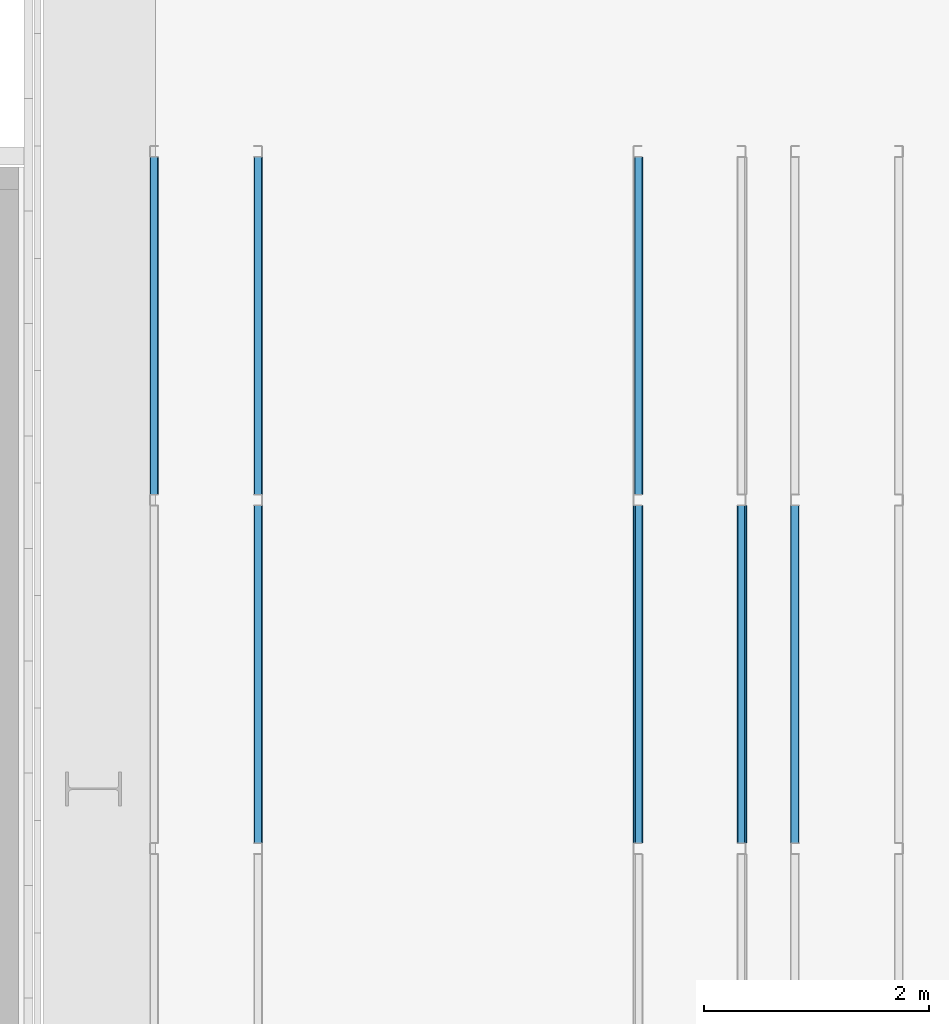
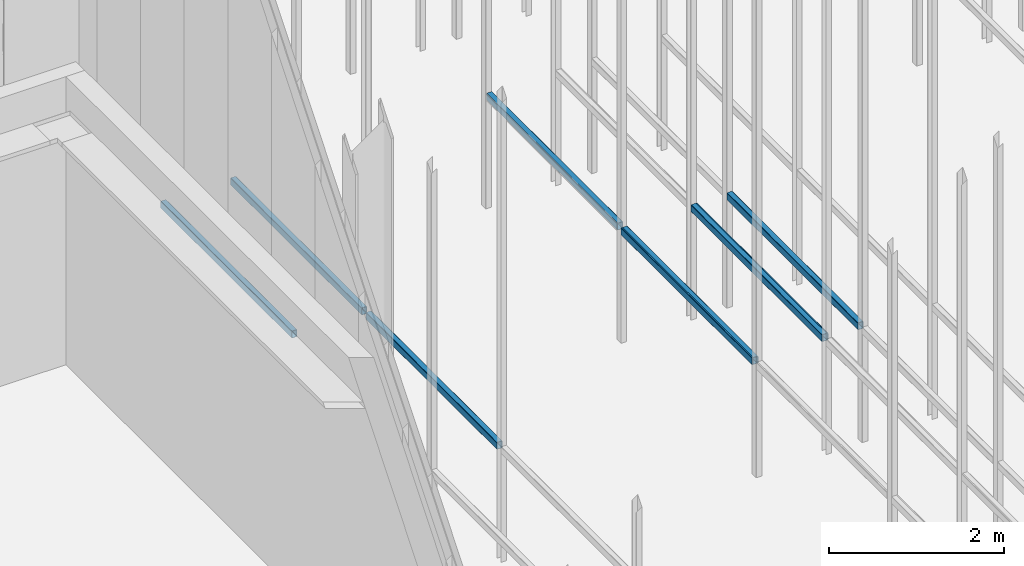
# One storey, part 145 of 302: 9 beams.
"""IFC2X3 building model written with IfcOpenShell, lengths in metres."""

from ifc_helpers import new_model, entity, si_unit, converted_unit, derived_unit, direction, frame, frame_2d, origin, place, context, subcontext, project, spatial, polyline, circle_curve, parameter, trimmed, segment, composite_curve, outline, extrude, material, type_object, element, save


model = new_model("IFC2X3")

# Units and contexts
model_context = context("Model", 3, precision=1e-05, world=origin(), true_north=direction((6.12303176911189e-17, 1.0)))
body_context = subcontext(model_context, "Body", "Model", "MODEL_VIEW")
ifc_project = project(units=[si_unit("LENGTHUNIT", "METRE"), si_unit("AREAUNIT", "SQUARE_METRE"), si_unit("VOLUMEUNIT", "CUBIC_METRE"), converted_unit("PLANEANGLEUNIT", "DEGREE", entity("IfcRatioMeasure", 0.0174532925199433), si_unit("PLANEANGLEUNIT", "RADIAN"), dimensions=[0, 0, 0, 0, 0, 0, 0]), si_unit("MASSUNIT", "GRAM", prefix="KILO"), derived_unit("MASSDENSITYUNIT", [(si_unit("MASSUNIT", "GRAM", prefix="KILO"), 1), (si_unit("LENGTHUNIT", "METRE"), -3)]), derived_unit("MOMENTOFINERTIAUNIT", [(si_unit("LENGTHUNIT", "METRE"), 4)]), si_unit("TIMEUNIT", "SECOND"), si_unit("FREQUENCYUNIT", "HERTZ"), si_unit("THERMODYNAMICTEMPERATUREUNIT", "DEGREE_CELSIUS"), derived_unit("THERMALTRANSMITTANCEUNIT", [(si_unit("MASSUNIT", "GRAM", prefix="KILO"), 1), (si_unit("THERMODYNAMICTEMPERATUREUNIT", "KELVIN"), -1), (si_unit("TIMEUNIT", "SECOND"), -3)]), derived_unit("VOLUMETRICFLOWRATEUNIT", [(si_unit("LENGTHUNIT", "METRE"), 3), (si_unit("TIMEUNIT", "SECOND"), -1)]), si_unit("ELECTRICCURRENTUNIT", "AMPERE"), si_unit("ELECTRICVOLTAGEUNIT", "VOLT"), si_unit("POWERUNIT", "WATT"), si_unit("FORCEUNIT", "NEWTON", prefix="KILO"), si_unit("ILLUMINANCEUNIT", "LUX"), si_unit("LUMINOUSFLUXUNIT", "LUMEN"), si_unit("LUMINOUSINTENSITYUNIT", "CANDELA"), derived_unit("USERDEFINED", [(si_unit("MASSUNIT", "GRAM", prefix="KILO"), -1), (si_unit("LENGTHUNIT", "METRE"), -2), (si_unit("TIMEUNIT", "SECOND"), 3), (si_unit("LUMINOUSFLUXUNIT", "LUMEN"), 1)]), derived_unit("LINEARVELOCITYUNIT", [(si_unit("LENGTHUNIT", "METRE"), 1), (si_unit("TIMEUNIT", "SECOND"), -1)]), si_unit("PRESSUREUNIT", "PASCAL"), derived_unit("USERDEFINED", [(si_unit("LENGTHUNIT", "METRE"), -2), (si_unit("MASSUNIT", "GRAM", prefix="KILO"), 1), (si_unit("TIMEUNIT", "SECOND"), -2)]), derived_unit("LINEARFORCEUNIT", [(si_unit("MASSUNIT", "GRAM", prefix="KILO"), 1), (si_unit("LENGTHUNIT", "METRE"), 1), (si_unit("TIMEUNIT", "SECOND"), -2), (si_unit("LENGTHUNIT", "METRE"), -1)]), derived_unit("PLANARFORCEUNIT", [(si_unit("MASSUNIT", "GRAM", prefix="KILO"), 1), (si_unit("LENGTHUNIT", "METRE"), 1), (si_unit("TIMEUNIT", "SECOND"), -2), (si_unit("LENGTHUNIT", "METRE"), -2)])], contexts=[model_context])

# Site, building, storey
site_placement = place(None, origin())
site = spatial("IfcSite", under=ifc_project, at=site_placement, Name="Default", CompositionType="ELEMENT")
building_placement = place(site_placement, origin())
building = spatial("IfcBuilding", under=site, at=building_placement, CompositionType="ELEMENT")
storey_placement = place(building_placement, frame((0.0, 0.0, -1.3)))
storey = spatial("IfcBuildingStorey", under=building, at=storey_placement, Name="00_EG", CompositionType="ELEMENT", Elevation=-1.3)

# Beams
ifc_material = material(Name="Metall - Baustahl S235 blau")
beam_type = type_object("IfcBeamType", Name="RHS Träger (EN 10219-2):RHS 100 x 75 x 5", PredefinedType="NOTDEFINED")
beam_1_placement = place(storey_placement, frame((-200.715111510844, 39.548088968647, 2.885), z_axis=(0.0, 0.0, 1.0), x_axis=(0.0, 1.0, 0.0)))
element("IfcBeam", 1, at=beam_1_placement, inside=storey, type_object=beam_type, material=ifc_material, Name="RHS Träger (EN 10219-2):RHS 100 x 75 x 5", ObjectType="RHS Träger (EN 10219-2):RHS 100 x 75 x 5", context=body_context, shape_type="SweptSolid", body=[
    extrude(outline(composite_curve([segment(trimmed(circle_curve(frame_2d((-0.0274999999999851, -0.0400000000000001), x_axis=(1.0, 0.0)), 0.01), [parameter(180.0)], [parameter(270.0)], True, "PARAMETER"), True, "CONTINUOUS"), segment(polyline([(-0.0274999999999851, -0.05), (0.0274999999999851, -0.05)]), True, "CONTINUOUS"), segment(trimmed(circle_curve(frame_2d((0.0274999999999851, -0.0400000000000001), x_axis=(1.0, 0.0)), 0.01), [parameter(270.0)], [parameter(5.08888749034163e-14)], True, "PARAMETER"), True, "CONTINUOUS"), segment(polyline([(0.0375000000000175, -0.0399999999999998), (0.0375000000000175, 0.0400000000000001)]), True, "CONTINUOUS"), segment(trimmed(circle_curve(frame_2d((0.0274999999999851, 0.0399999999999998), x_axis=(1.0, 0.0)), 0.01), [parameter(360.0)], [parameter(89.9999999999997)], True, "PARAMETER"), True, "CONTINUOUS"), segment(polyline([(0.0274999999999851, 0.05), (-0.0274999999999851, 0.05)]), True, "CONTINUOUS"), segment(trimmed(circle_curve(frame_2d((-0.0274999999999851, 0.0399999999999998), x_axis=(1.0, 0.0)), 0.01), [parameter(90.0000000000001)], [parameter(180.0)], True, "PARAMETER"), True, "CONTINUOUS"), segment(polyline([(-0.0374999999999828, 0.0400000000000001), (-0.0374999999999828, -0.0399999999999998)]), True, "CONTINUOUS")], self_intersect=False), holes=[composite_curve([segment(polyline([(0.0274999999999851, -0.0450000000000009), (-0.0274999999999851, -0.0450000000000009)]), True, "CONTINUOUS"), segment(trimmed(circle_curve(frame_2d((-0.0274999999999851, -0.0400000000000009), x_axis=(1.0, 0.0)), 0.005), [parameter(180.0)], [parameter(270.0)], True, "PARAMETER"), False, "CONTINUOUS"), segment(polyline([(-0.0325000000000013, -0.0400000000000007), (-0.0325000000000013, 0.0399999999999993)]), True, "CONTINUOUS"), segment(trimmed(circle_curve(frame_2d((-0.0274999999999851, 0.039999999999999), x_axis=(1.0, 0.0)), 0.005), [parameter(90.0000000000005)], [parameter(180.0)], True, "PARAMETER"), False, "CONTINUOUS"), segment(polyline([(-0.0274999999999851, 0.0449999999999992), (0.0274999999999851, 0.0449999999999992)]), True, "CONTINUOUS"), segment(trimmed(circle_curve(frame_2d((0.0274999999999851, 0.039999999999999), x_axis=(1.0, 0.0)), 0.005), [parameter(0.0)], [parameter(90.0000000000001)], True, "PARAMETER"), False, "CONTINUOUS"), segment(polyline([(0.0325000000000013, 0.0399999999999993), (0.0325000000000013, -0.0400000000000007)]), True, "CONTINUOUS"), segment(trimmed(circle_curve(frame_2d((0.0274999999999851, -0.0400000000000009), x_axis=(1.0, 0.0)), 0.005), [parameter(270.0)], [parameter(4.07110999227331e-13)], True, "PARAMETER"), False, "CONTINUOUS")], self_intersect=False)]), frame((9.99999999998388e-05, 0.0375000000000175, -0.0500000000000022), z_axis=(1.0, 0.0, 0.0), x_axis=(0.0, -1.0, 0.0)), (0.0, 0.0, 1.0), 2.99979999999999),
])
beam_2_placement = place(storey_placement, frame((-202.105111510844, 39.548088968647, 2.885), z_axis=(0.0, 0.0, 1.0), x_axis=(0.0, 1.0, 0.0)))
element("IfcBeam", 2, at=beam_2_placement, inside=storey, type_object=beam_type, material=ifc_material, Name="RHS Träger (EN 10219-2):RHS 100 x 75 x 5", ObjectType="RHS Träger (EN 10219-2):RHS 100 x 75 x 5", context=body_context, shape_type="SweptSolid", body=[
    extrude(outline(composite_curve([segment(trimmed(circle_curve(frame_2d((-0.0274999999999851, -0.0400000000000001), x_axis=(1.0, 0.0)), 0.01), [parameter(180.0)], [parameter(270.0)], True, "PARAMETER"), True, "CONTINUOUS"), segment(polyline([(-0.0274999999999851, -0.05), (0.0274999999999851, -0.05)]), True, "CONTINUOUS"), segment(trimmed(circle_curve(frame_2d((0.0274999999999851, -0.0400000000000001), x_axis=(1.0, 0.0)), 0.01), [parameter(270.0)], [parameter(5.08888749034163e-14)], True, "PARAMETER"), True, "CONTINUOUS"), segment(polyline([(0.0375000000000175, -0.0399999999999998), (0.0375000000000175, 0.0400000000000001)]), True, "CONTINUOUS"), segment(trimmed(circle_curve(frame_2d((0.0274999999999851, 0.0399999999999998), x_axis=(1.0, 0.0)), 0.01), [parameter(360.0)], [parameter(89.9999999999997)], True, "PARAMETER"), True, "CONTINUOUS"), segment(polyline([(0.0274999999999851, 0.05), (-0.0274999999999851, 0.05)]), True, "CONTINUOUS"), segment(trimmed(circle_curve(frame_2d((-0.0274999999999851, 0.0399999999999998), x_axis=(1.0, 0.0)), 0.01), [parameter(90.0000000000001)], [parameter(180.0)], True, "PARAMETER"), True, "CONTINUOUS"), segment(polyline([(-0.0374999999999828, 0.0400000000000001), (-0.0374999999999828, -0.0399999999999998)]), True, "CONTINUOUS")], self_intersect=False), holes=[composite_curve([segment(polyline([(0.0274999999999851, -0.0450000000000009), (-0.0274999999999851, -0.0450000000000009)]), True, "CONTINUOUS"), segment(trimmed(circle_curve(frame_2d((-0.0274999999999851, -0.0400000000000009), x_axis=(1.0, 0.0)), 0.005), [parameter(180.0)], [parameter(270.0)], True, "PARAMETER"), False, "CONTINUOUS"), segment(polyline([(-0.0325000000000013, -0.0400000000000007), (-0.0325000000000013, 0.0399999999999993)]), True, "CONTINUOUS"), segment(trimmed(circle_curve(frame_2d((-0.0274999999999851, 0.039999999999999), x_axis=(1.0, 0.0)), 0.005), [parameter(90.0000000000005)], [parameter(180.0)], True, "PARAMETER"), False, "CONTINUOUS"), segment(polyline([(-0.0274999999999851, 0.0449999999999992), (0.0274999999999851, 0.0449999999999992)]), True, "CONTINUOUS"), segment(trimmed(circle_curve(frame_2d((0.0274999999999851, 0.039999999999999), x_axis=(1.0, 0.0)), 0.005), [parameter(0.0)], [parameter(90.0000000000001)], True, "PARAMETER"), False, "CONTINUOUS"), segment(polyline([(0.0325000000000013, 0.0399999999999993), (0.0325000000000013, -0.0400000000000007)]), True, "CONTINUOUS"), segment(trimmed(circle_curve(frame_2d((0.0274999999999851, -0.0400000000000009), x_axis=(1.0, 0.0)), 0.005), [parameter(270.0)], [parameter(4.07110999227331e-13)], True, "PARAMETER"), False, "CONTINUOUS")], self_intersect=False)]), frame((9.99999999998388e-05, 0.0375000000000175, -0.0500000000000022), z_axis=(1.0, 0.0, 0.0), x_axis=(0.0, -1.0, 0.0)), (0.0, 0.0, 1.0), 2.99979999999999),
])
beam_3_placement = place(storey_placement, frame((-201.255111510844, 39.548088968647, 2.885), z_axis=(0.0, 0.0, 1.0), x_axis=(0.0, 1.0, 0.0)))
element("IfcBeam", 3, at=beam_3_placement, inside=storey, type_object=beam_type, material=ifc_material, Name="RHS Träger (EN 10219-2):RHS 100 x 75 x 5", ObjectType="RHS Träger (EN 10219-2):RHS 100 x 75 x 5", context=body_context, shape_type="SweptSolid", body=[
    extrude(outline(composite_curve([segment(polyline([(-0.0399999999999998, -0.0374999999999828), (0.0400000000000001, -0.0374999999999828)]), True, "CONTINUOUS"), segment(trimmed(circle_curve(frame_2d((0.0399999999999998, -0.0274999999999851), x_axis=(0.0, 1.0)), 0.01), [parameter(180.0)], [parameter(270.0)], True, "PARAMETER"), True, "CONTINUOUS"), segment(polyline([(0.05, -0.0274999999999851), (0.05, 0.0274999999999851)]), True, "CONTINUOUS"), segment(trimmed(circle_curve(frame_2d((0.0399999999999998, 0.0274999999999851), x_axis=(0.0, 1.0)), 0.01), [parameter(270.0)], [parameter(4.07110999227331e-13)], True, "PARAMETER"), True, "CONTINUOUS"), segment(polyline([(0.0400000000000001, 0.0375000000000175), (-0.0399999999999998, 0.0375000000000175)]), True, "CONTINUOUS"), segment(trimmed(circle_curve(frame_2d((-0.0400000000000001, 0.0274999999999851), x_axis=(0.0, 1.0)), 0.01), [parameter(360.0)], [parameter(90.0000000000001)], True, "PARAMETER"), True, "CONTINUOUS"), segment(polyline([(-0.05, 0.0274999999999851), (-0.05, -0.0274999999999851)]), True, "CONTINUOUS"), segment(trimmed(circle_curve(frame_2d((-0.0400000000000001, -0.0274999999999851), x_axis=(0.0, 1.0)), 0.01), [parameter(90.0000000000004)], [parameter(180.0)], True, "PARAMETER"), True, "CONTINUOUS")], self_intersect=False), holes=[composite_curve([segment(trimmed(circle_curve(frame_2d((-0.0400000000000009, 0.0274999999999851), x_axis=(0.0, 1.0)), 0.005), [parameter(360.0)], [parameter(89.9999999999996)], True, "PARAMETER"), False, "CONTINUOUS"), segment(polyline([(-0.0400000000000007, 0.0325000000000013), (0.0399999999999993, 0.0325000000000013)]), True, "CONTINUOUS"), segment(trimmed(circle_curve(frame_2d((0.039999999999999, 0.0274999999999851), x_axis=(0.0, 1.0)), 0.005), [parameter(270.0)], [parameter(0.0)], True, "PARAMETER"), False, "CONTINUOUS"), segment(polyline([(0.0449999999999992, 0.0274999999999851), (0.0449999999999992, -0.0274999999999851)]), True, "CONTINUOUS"), segment(trimmed(circle_curve(frame_2d((0.039999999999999, -0.0274999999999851), x_axis=(0.0, 1.0)), 0.005), [parameter(180.0)], [parameter(269.999999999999)], True, "PARAMETER"), False, "CONTINUOUS"), segment(polyline([(0.0399999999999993, -0.0325000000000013), (-0.0400000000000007, -0.0325000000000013)]), True, "CONTINUOUS"), segment(trimmed(circle_curve(frame_2d((-0.0400000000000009, -0.0274999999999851), x_axis=(0.0, 1.0)), 0.005), [parameter(90.0000000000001)], [parameter(180.0)], True, "PARAMETER"), False, "CONTINUOUS"), segment(polyline([(-0.0450000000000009, -0.0274999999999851), (-0.0450000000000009, 0.0274999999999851)]), True, "CONTINUOUS")], self_intersect=False)]), frame((0.000100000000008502, -0.0375000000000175, -0.0500000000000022), z_axis=(1.0, 0.0, 0.0), x_axis=(0.0, 0.0, -1.0)), (0.0, 0.0, 1.0), 2.99979999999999),
])
beam_4_placement = place(storey_placement, frame((-205.565111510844, 39.548088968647, 2.885), z_axis=(0.0, 0.0, 1.0), x_axis=(0.0, 1.0, 0.0)))
element("IfcBeam", 4, at=beam_4_placement, inside=storey, type_object=beam_type, material=ifc_material, Name="RHS Träger (EN 10219-2):RHS 100 x 75 x 5", ObjectType="RHS Träger (EN 10219-2):RHS 100 x 75 x 5", context=body_context, shape_type="SweptSolid", body=[
    extrude(outline(composite_curve([segment(polyline([(-0.0399999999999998, -0.0374999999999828), (0.0400000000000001, -0.0374999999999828)]), True, "CONTINUOUS"), segment(trimmed(circle_curve(frame_2d((0.0399999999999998, -0.0274999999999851), x_axis=(0.0, 1.0)), 0.01), [parameter(180.0)], [parameter(270.0)], True, "PARAMETER"), True, "CONTINUOUS"), segment(polyline([(0.05, -0.0274999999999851), (0.05, 0.0274999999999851)]), True, "CONTINUOUS"), segment(trimmed(circle_curve(frame_2d((0.0399999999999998, 0.0274999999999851), x_axis=(0.0, 1.0)), 0.01), [parameter(270.0)], [parameter(4.07110999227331e-13)], True, "PARAMETER"), True, "CONTINUOUS"), segment(polyline([(0.0400000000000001, 0.0375000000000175), (-0.0399999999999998, 0.0375000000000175)]), True, "CONTINUOUS"), segment(trimmed(circle_curve(frame_2d((-0.0400000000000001, 0.0274999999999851), x_axis=(0.0, 1.0)), 0.01), [parameter(360.0)], [parameter(90.0000000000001)], True, "PARAMETER"), True, "CONTINUOUS"), segment(polyline([(-0.05, 0.0274999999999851), (-0.05, -0.0274999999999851)]), True, "CONTINUOUS"), segment(trimmed(circle_curve(frame_2d((-0.0400000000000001, -0.0274999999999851), x_axis=(0.0, 1.0)), 0.01), [parameter(90.0000000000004)], [parameter(180.0)], True, "PARAMETER"), True, "CONTINUOUS")], self_intersect=False), holes=[composite_curve([segment(trimmed(circle_curve(frame_2d((-0.0400000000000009, 0.0274999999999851), x_axis=(0.0, 1.0)), 0.005), [parameter(360.0)], [parameter(89.9999999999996)], True, "PARAMETER"), False, "CONTINUOUS"), segment(polyline([(-0.0400000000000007, 0.0325000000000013), (0.0399999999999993, 0.0325000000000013)]), True, "CONTINUOUS"), segment(trimmed(circle_curve(frame_2d((0.039999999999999, 0.0274999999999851), x_axis=(0.0, 1.0)), 0.005), [parameter(270.0)], [parameter(0.0)], True, "PARAMETER"), False, "CONTINUOUS"), segment(polyline([(0.0449999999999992, 0.0274999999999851), (0.0449999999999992, -0.0274999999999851)]), True, "CONTINUOUS"), segment(trimmed(circle_curve(frame_2d((0.039999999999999, -0.0274999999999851), x_axis=(0.0, 1.0)), 0.005), [parameter(180.0)], [parameter(269.999999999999)], True, "PARAMETER"), False, "CONTINUOUS"), segment(polyline([(0.0399999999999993, -0.0325000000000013), (-0.0400000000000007, -0.0325000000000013)]), True, "CONTINUOUS"), segment(trimmed(circle_curve(frame_2d((-0.0400000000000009, -0.0274999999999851), x_axis=(0.0, 1.0)), 0.005), [parameter(90.0000000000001)], [parameter(180.0)], True, "PARAMETER"), False, "CONTINUOUS"), segment(polyline([(-0.0450000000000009, -0.0274999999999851), (-0.0450000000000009, 0.0274999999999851)]), True, "CONTINUOUS")], self_intersect=False)]), frame((0.000100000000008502, -0.0375000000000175, -0.0500000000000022), z_axis=(1.0, 0.0, 0.0), x_axis=(0.0, 0.0, -1.0)), (0.0, 0.0, 1.0), 2.99979999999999),
])
beam_5_placement = place(storey_placement, frame((-202.115111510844, 39.548088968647, 2.885), z_axis=(0.0, 0.0, 1.0), x_axis=(0.0, 1.0, 0.0)))
element("IfcBeam", 5, at=beam_5_placement, inside=storey, type_object=beam_type, material=ifc_material, Name="RHS Träger (EN 10219-2):RHS 100 x 75 x 5", ObjectType="RHS Träger (EN 10219-2):RHS 100 x 75 x 5", context=body_context, shape_type="SweptSolid", body=[
    extrude(outline(composite_curve([segment(trimmed(circle_curve(frame_2d((-0.0274999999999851, -0.0400000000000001), x_axis=(1.0, 0.0)), 0.01), [parameter(180.0)], [parameter(270.0)], True, "PARAMETER"), True, "CONTINUOUS"), segment(polyline([(-0.0274999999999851, -0.05), (0.0274999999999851, -0.05)]), True, "CONTINUOUS"), segment(trimmed(circle_curve(frame_2d((0.0274999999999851, -0.0400000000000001), x_axis=(1.0, 0.0)), 0.01), [parameter(270.0)], [parameter(5.08888749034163e-14)], True, "PARAMETER"), True, "CONTINUOUS"), segment(polyline([(0.0375000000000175, -0.0399999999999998), (0.0375000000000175, 0.0400000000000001)]), True, "CONTINUOUS"), segment(trimmed(circle_curve(frame_2d((0.0274999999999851, 0.0399999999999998), x_axis=(1.0, 0.0)), 0.01), [parameter(360.0)], [parameter(89.9999999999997)], True, "PARAMETER"), True, "CONTINUOUS"), segment(polyline([(0.0274999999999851, 0.05), (-0.0274999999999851, 0.05)]), True, "CONTINUOUS"), segment(trimmed(circle_curve(frame_2d((-0.0274999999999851, 0.0399999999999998), x_axis=(1.0, 0.0)), 0.01), [parameter(90.0000000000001)], [parameter(180.0)], True, "PARAMETER"), True, "CONTINUOUS"), segment(polyline([(-0.0374999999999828, 0.0400000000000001), (-0.0374999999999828, -0.0399999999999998)]), True, "CONTINUOUS")], self_intersect=False), holes=[composite_curve([segment(polyline([(0.0274999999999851, -0.0450000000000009), (-0.0274999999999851, -0.0450000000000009)]), True, "CONTINUOUS"), segment(trimmed(circle_curve(frame_2d((-0.0274999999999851, -0.0400000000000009), x_axis=(1.0, 0.0)), 0.005), [parameter(180.0)], [parameter(270.0)], True, "PARAMETER"), False, "CONTINUOUS"), segment(polyline([(-0.0325000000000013, -0.0400000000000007), (-0.0325000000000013, 0.0399999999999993)]), True, "CONTINUOUS"), segment(trimmed(circle_curve(frame_2d((-0.0274999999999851, 0.039999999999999), x_axis=(1.0, 0.0)), 0.005), [parameter(90.0000000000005)], [parameter(180.0)], True, "PARAMETER"), False, "CONTINUOUS"), segment(polyline([(-0.0274999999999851, 0.0449999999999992), (0.0274999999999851, 0.0449999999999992)]), True, "CONTINUOUS"), segment(trimmed(circle_curve(frame_2d((0.0274999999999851, 0.039999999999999), x_axis=(1.0, 0.0)), 0.005), [parameter(0.0)], [parameter(90.0000000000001)], True, "PARAMETER"), False, "CONTINUOUS"), segment(polyline([(0.0325000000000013, 0.0399999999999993), (0.0325000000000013, -0.0400000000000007)]), True, "CONTINUOUS"), segment(trimmed(circle_curve(frame_2d((0.0274999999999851, -0.0400000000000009), x_axis=(1.0, 0.0)), 0.005), [parameter(270.0)], [parameter(4.07110999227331e-13)], True, "PARAMETER"), False, "CONTINUOUS")], self_intersect=False)]), frame((9.99999999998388e-05, 0.0375000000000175, -0.0500000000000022), z_axis=(1.0, 0.0, 0.0), x_axis=(0.0, -1.0, 0.0)), (0.0, 0.0, 1.0), 2.99979999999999),
])
beam_6_placement = place(storey_placement, frame((-201.265111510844, 39.548088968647, 2.885), z_axis=(0.0, 0.0, 1.0), x_axis=(0.0, 1.0, 0.0)))
element("IfcBeam", 6, at=beam_6_placement, inside=storey, type_object=beam_type, material=ifc_material, Name="RHS Träger (EN 10219-2):RHS 100 x 75 x 5", ObjectType="RHS Träger (EN 10219-2):RHS 100 x 75 x 5", context=body_context, shape_type="SweptSolid", body=[
    extrude(outline(composite_curve([segment(polyline([(-0.0399999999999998, -0.0374999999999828), (0.0400000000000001, -0.0374999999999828)]), True, "CONTINUOUS"), segment(trimmed(circle_curve(frame_2d((0.0399999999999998, -0.0274999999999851), x_axis=(0.0, 1.0)), 0.01), [parameter(180.0)], [parameter(270.0)], True, "PARAMETER"), True, "CONTINUOUS"), segment(polyline([(0.05, -0.0274999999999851), (0.05, 0.0274999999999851)]), True, "CONTINUOUS"), segment(trimmed(circle_curve(frame_2d((0.0399999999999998, 0.0274999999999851), x_axis=(0.0, 1.0)), 0.01), [parameter(270.0)], [parameter(4.07110999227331e-13)], True, "PARAMETER"), True, "CONTINUOUS"), segment(polyline([(0.0400000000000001, 0.0375000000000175), (-0.0399999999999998, 0.0375000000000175)]), True, "CONTINUOUS"), segment(trimmed(circle_curve(frame_2d((-0.0400000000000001, 0.0274999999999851), x_axis=(0.0, 1.0)), 0.01), [parameter(360.0)], [parameter(90.0000000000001)], True, "PARAMETER"), True, "CONTINUOUS"), segment(polyline([(-0.05, 0.0274999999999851), (-0.05, -0.0274999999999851)]), True, "CONTINUOUS"), segment(trimmed(circle_curve(frame_2d((-0.0400000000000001, -0.0274999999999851), x_axis=(0.0, 1.0)), 0.01), [parameter(90.0000000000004)], [parameter(180.0)], True, "PARAMETER"), True, "CONTINUOUS")], self_intersect=False), holes=[composite_curve([segment(trimmed(circle_curve(frame_2d((-0.0400000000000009, 0.0274999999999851), x_axis=(0.0, 1.0)), 0.005), [parameter(360.0)], [parameter(89.9999999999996)], True, "PARAMETER"), False, "CONTINUOUS"), segment(polyline([(-0.0400000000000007, 0.0325000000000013), (0.0399999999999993, 0.0325000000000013)]), True, "CONTINUOUS"), segment(trimmed(circle_curve(frame_2d((0.039999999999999, 0.0274999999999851), x_axis=(0.0, 1.0)), 0.005), [parameter(270.0)], [parameter(0.0)], True, "PARAMETER"), False, "CONTINUOUS"), segment(polyline([(0.0449999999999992, 0.0274999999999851), (0.0449999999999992, -0.0274999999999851)]), True, "CONTINUOUS"), segment(trimmed(circle_curve(frame_2d((0.039999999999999, -0.0274999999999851), x_axis=(0.0, 1.0)), 0.005), [parameter(180.0)], [parameter(269.999999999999)], True, "PARAMETER"), False, "CONTINUOUS"), segment(polyline([(0.0399999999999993, -0.0325000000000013), (-0.0400000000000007, -0.0325000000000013)]), True, "CONTINUOUS"), segment(trimmed(circle_curve(frame_2d((-0.0400000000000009, -0.0274999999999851), x_axis=(0.0, 1.0)), 0.005), [parameter(90.0000000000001)], [parameter(180.0)], True, "PARAMETER"), False, "CONTINUOUS"), segment(polyline([(-0.0450000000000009, -0.0274999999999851), (-0.0450000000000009, 0.0274999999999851)]), True, "CONTINUOUS")], self_intersect=False)]), frame((0.000100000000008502, -0.0375000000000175, -0.0500000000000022), z_axis=(1.0, 0.0, 0.0), x_axis=(0.0, 0.0, -1.0)), (0.0, 0.0, 1.0), 2.99979999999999),
])
beam_7_placement = place(storey_placement, frame((-202.105111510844, 42.648088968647, 2.885), z_axis=(0.0, 0.0, 1.0), x_axis=(0.0, 1.0, 0.0)))
element("IfcBeam", 7, at=beam_7_placement, inside=storey, type_object=beam_type, material=ifc_material, Name="RHS Träger (EN 10219-2):RHS 100 x 75 x 5", ObjectType="RHS Träger (EN 10219-2):RHS 100 x 75 x 5", context=body_context, shape_type="SweptSolid", body=[
    extrude(outline(composite_curve([segment(trimmed(circle_curve(frame_2d((-0.0274999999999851, -0.0400000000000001), x_axis=(1.0, 0.0)), 0.01), [parameter(180.0)], [parameter(270.0)], True, "PARAMETER"), True, "CONTINUOUS"), segment(polyline([(-0.0274999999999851, -0.05), (0.0274999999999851, -0.05)]), True, "CONTINUOUS"), segment(trimmed(circle_curve(frame_2d((0.0274999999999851, -0.0400000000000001), x_axis=(1.0, 0.0)), 0.01), [parameter(270.0)], [parameter(5.08888749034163e-14)], True, "PARAMETER"), True, "CONTINUOUS"), segment(polyline([(0.0375000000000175, -0.0399999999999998), (0.0375000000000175, 0.0400000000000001)]), True, "CONTINUOUS"), segment(trimmed(circle_curve(frame_2d((0.0274999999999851, 0.0399999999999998), x_axis=(1.0, 0.0)), 0.01), [parameter(360.0)], [parameter(89.9999999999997)], True, "PARAMETER"), True, "CONTINUOUS"), segment(polyline([(0.0274999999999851, 0.05), (-0.0274999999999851, 0.05)]), True, "CONTINUOUS"), segment(trimmed(circle_curve(frame_2d((-0.0274999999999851, 0.0399999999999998), x_axis=(1.0, 0.0)), 0.01), [parameter(90.0000000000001)], [parameter(180.0)], True, "PARAMETER"), True, "CONTINUOUS"), segment(polyline([(-0.0374999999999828, 0.0400000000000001), (-0.0374999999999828, -0.0399999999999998)]), True, "CONTINUOUS")], self_intersect=False), holes=[composite_curve([segment(polyline([(0.0274999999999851, -0.0450000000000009), (-0.0274999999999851, -0.0450000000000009)]), True, "CONTINUOUS"), segment(trimmed(circle_curve(frame_2d((-0.0274999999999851, -0.0400000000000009), x_axis=(1.0, 0.0)), 0.005), [parameter(180.0)], [parameter(270.0)], True, "PARAMETER"), False, "CONTINUOUS"), segment(polyline([(-0.0325000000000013, -0.0400000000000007), (-0.0325000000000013, 0.0399999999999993)]), True, "CONTINUOUS"), segment(trimmed(circle_curve(frame_2d((-0.0274999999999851, 0.039999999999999), x_axis=(1.0, 0.0)), 0.005), [parameter(90.0000000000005)], [parameter(180.0)], True, "PARAMETER"), False, "CONTINUOUS"), segment(polyline([(-0.0274999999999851, 0.0449999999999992), (0.0274999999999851, 0.0449999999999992)]), True, "CONTINUOUS"), segment(trimmed(circle_curve(frame_2d((0.0274999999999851, 0.039999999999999), x_axis=(1.0, 0.0)), 0.005), [parameter(0.0)], [parameter(90.0000000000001)], True, "PARAMETER"), False, "CONTINUOUS"), segment(polyline([(0.0325000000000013, 0.0399999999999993), (0.0325000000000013, -0.0400000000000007)]), True, "CONTINUOUS"), segment(trimmed(circle_curve(frame_2d((0.0274999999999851, -0.0400000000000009), x_axis=(1.0, 0.0)), 0.005), [parameter(270.0)], [parameter(4.07110999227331e-13)], True, "PARAMETER"), False, "CONTINUOUS")], self_intersect=False)]), frame((0.000100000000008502, 0.0375000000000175, -0.0500000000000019), z_axis=(1.0, 0.0, 0.0), x_axis=(0.0, -1.0, 0.0)), (0.0, 0.0, 1.0), 2.99979999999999),
])
beam_8_placement = place(storey_placement, frame((-206.415111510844, 42.648088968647, 2.885), z_axis=(0.0, 0.0, 1.0), x_axis=(0.0, 1.0, 0.0)))
element("IfcBeam", 8, at=beam_8_placement, inside=storey, type_object=beam_type, material=ifc_material, Name="RHS Träger (EN 10219-2):RHS 100 x 75 x 5", ObjectType="RHS Träger (EN 10219-2):RHS 100 x 75 x 5", context=body_context, shape_type="SweptSolid", body=[
    extrude(outline(composite_curve([segment(trimmed(circle_curve(frame_2d((-0.0274999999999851, -0.0400000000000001), x_axis=(1.0, 0.0)), 0.01), [parameter(180.0)], [parameter(270.0)], True, "PARAMETER"), True, "CONTINUOUS"), segment(polyline([(-0.0274999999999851, -0.05), (0.0274999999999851, -0.05)]), True, "CONTINUOUS"), segment(trimmed(circle_curve(frame_2d((0.0274999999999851, -0.0400000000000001), x_axis=(1.0, 0.0)), 0.01), [parameter(270.0)], [parameter(5.08888749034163e-14)], True, "PARAMETER"), True, "CONTINUOUS"), segment(polyline([(0.0375000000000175, -0.0399999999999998), (0.0375000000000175, 0.0400000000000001)]), True, "CONTINUOUS"), segment(trimmed(circle_curve(frame_2d((0.0274999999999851, 0.0399999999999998), x_axis=(1.0, 0.0)), 0.01), [parameter(360.0)], [parameter(89.9999999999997)], True, "PARAMETER"), True, "CONTINUOUS"), segment(polyline([(0.0274999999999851, 0.05), (-0.0274999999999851, 0.05)]), True, "CONTINUOUS"), segment(trimmed(circle_curve(frame_2d((-0.0274999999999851, 0.0399999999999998), x_axis=(1.0, 0.0)), 0.01), [parameter(90.0000000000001)], [parameter(180.0)], True, "PARAMETER"), True, "CONTINUOUS"), segment(polyline([(-0.0374999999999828, 0.0400000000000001), (-0.0374999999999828, -0.0399999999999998)]), True, "CONTINUOUS")], self_intersect=False), holes=[composite_curve([segment(polyline([(0.0274999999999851, -0.0450000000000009), (-0.0274999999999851, -0.0450000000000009)]), True, "CONTINUOUS"), segment(trimmed(circle_curve(frame_2d((-0.0274999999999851, -0.0400000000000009), x_axis=(1.0, 0.0)), 0.005), [parameter(180.0)], [parameter(270.0)], True, "PARAMETER"), False, "CONTINUOUS"), segment(polyline([(-0.0325000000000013, -0.0400000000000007), (-0.0325000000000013, 0.0399999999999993)]), True, "CONTINUOUS"), segment(trimmed(circle_curve(frame_2d((-0.0274999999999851, 0.039999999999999), x_axis=(1.0, 0.0)), 0.005), [parameter(90.0000000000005)], [parameter(180.0)], True, "PARAMETER"), False, "CONTINUOUS"), segment(polyline([(-0.0274999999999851, 0.0449999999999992), (0.0274999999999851, 0.0449999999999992)]), True, "CONTINUOUS"), segment(trimmed(circle_curve(frame_2d((0.0274999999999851, 0.039999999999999), x_axis=(1.0, 0.0)), 0.005), [parameter(0.0)], [parameter(90.0000000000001)], True, "PARAMETER"), False, "CONTINUOUS"), segment(polyline([(0.0325000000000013, 0.0399999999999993), (0.0325000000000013, -0.0400000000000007)]), True, "CONTINUOUS"), segment(trimmed(circle_curve(frame_2d((0.0274999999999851, -0.0400000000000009), x_axis=(1.0, 0.0)), 0.005), [parameter(270.0)], [parameter(4.07110999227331e-13)], True, "PARAMETER"), False, "CONTINUOUS")], self_intersect=False)]), frame((9.99999999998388e-05, 0.0375000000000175, -0.0500000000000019), z_axis=(1.0, 0.0, 0.0), x_axis=(0.0, -1.0, 0.0)), (0.0, 0.0, 1.0), 2.99979999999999),
])
beam_9_placement = place(storey_placement, frame((-205.565111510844, 42.648088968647, 2.885), z_axis=(0.0, 0.0, 1.0), x_axis=(0.0, 1.0, 0.0)))
element("IfcBeam", 9, at=beam_9_placement, inside=storey, type_object=beam_type, material=ifc_material, Name="RHS Träger (EN 10219-2):RHS 100 x 75 x 5", ObjectType="RHS Träger (EN 10219-2):RHS 100 x 75 x 5", context=body_context, shape_type="SweptSolid", body=[
    extrude(outline(composite_curve([segment(polyline([(-0.0399999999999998, -0.0374999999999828), (0.0400000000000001, -0.0374999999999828)]), True, "CONTINUOUS"), segment(trimmed(circle_curve(frame_2d((0.0399999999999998, -0.0274999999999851), x_axis=(0.0, 1.0)), 0.01), [parameter(180.0)], [parameter(270.0)], True, "PARAMETER"), True, "CONTINUOUS"), segment(polyline([(0.05, -0.0274999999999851), (0.05, 0.0274999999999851)]), True, "CONTINUOUS"), segment(trimmed(circle_curve(frame_2d((0.0399999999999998, 0.0274999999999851), x_axis=(0.0, 1.0)), 0.01), [parameter(270.0)], [parameter(4.07110999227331e-13)], True, "PARAMETER"), True, "CONTINUOUS"), segment(polyline([(0.0400000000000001, 0.0375000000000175), (-0.0399999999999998, 0.0375000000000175)]), True, "CONTINUOUS"), segment(trimmed(circle_curve(frame_2d((-0.0400000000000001, 0.0274999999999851), x_axis=(0.0, 1.0)), 0.01), [parameter(360.0)], [parameter(90.0000000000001)], True, "PARAMETER"), True, "CONTINUOUS"), segment(polyline([(-0.05, 0.0274999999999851), (-0.05, -0.0274999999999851)]), True, "CONTINUOUS"), segment(trimmed(circle_curve(frame_2d((-0.0400000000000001, -0.0274999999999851), x_axis=(0.0, 1.0)), 0.01), [parameter(90.0000000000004)], [parameter(180.0)], True, "PARAMETER"), True, "CONTINUOUS")], self_intersect=False), holes=[composite_curve([segment(trimmed(circle_curve(frame_2d((-0.0400000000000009, 0.0274999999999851), x_axis=(0.0, 1.0)), 0.005), [parameter(360.0)], [parameter(89.9999999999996)], True, "PARAMETER"), False, "CONTINUOUS"), segment(polyline([(-0.0400000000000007, 0.0325000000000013), (0.0399999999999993, 0.0325000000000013)]), True, "CONTINUOUS"), segment(trimmed(circle_curve(frame_2d((0.039999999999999, 0.0274999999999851), x_axis=(0.0, 1.0)), 0.005), [parameter(270.0)], [parameter(0.0)], True, "PARAMETER"), False, "CONTINUOUS"), segment(polyline([(0.0449999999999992, 0.0274999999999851), (0.0449999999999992, -0.0274999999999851)]), True, "CONTINUOUS"), segment(trimmed(circle_curve(frame_2d((0.039999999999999, -0.0274999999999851), x_axis=(0.0, 1.0)), 0.005), [parameter(180.0)], [parameter(269.999999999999)], True, "PARAMETER"), False, "CONTINUOUS"), segment(polyline([(0.0399999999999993, -0.0325000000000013), (-0.0400000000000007, -0.0325000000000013)]), True, "CONTINUOUS"), segment(trimmed(circle_curve(frame_2d((-0.0400000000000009, -0.0274999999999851), x_axis=(0.0, 1.0)), 0.005), [parameter(90.0000000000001)], [parameter(180.0)], True, "PARAMETER"), False, "CONTINUOUS"), segment(polyline([(-0.0450000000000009, -0.0274999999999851), (-0.0450000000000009, 0.0274999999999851)]), True, "CONTINUOUS")], self_intersect=False)]), frame((0.000100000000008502, -0.0375000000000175, -0.0500000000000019), z_axis=(1.0, 0.0, 0.0), x_axis=(0.0, 0.0, -1.0)), (0.0, 0.0, 1.0), 2.99979999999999),
])

save(model, "model.ifc")
